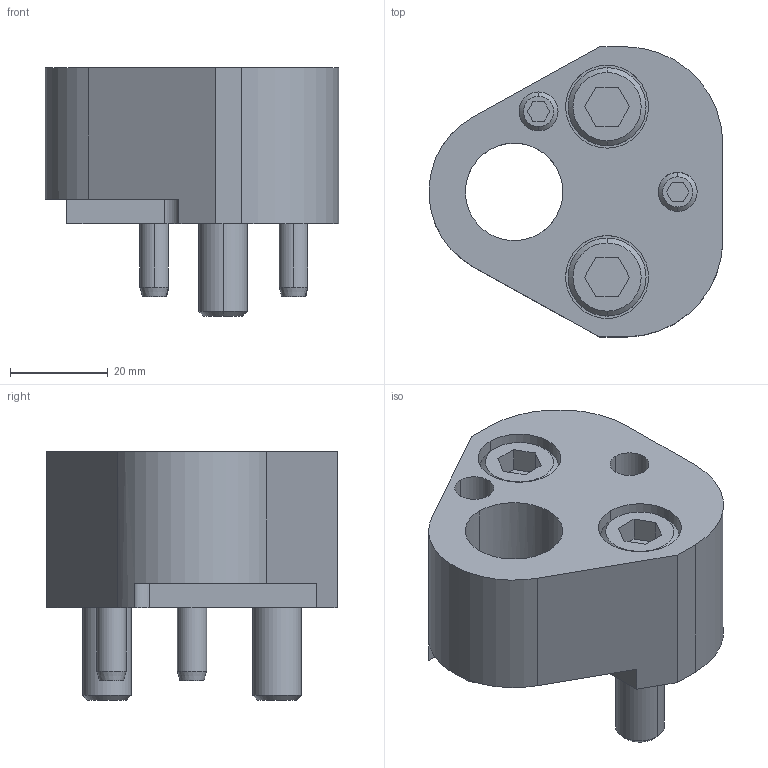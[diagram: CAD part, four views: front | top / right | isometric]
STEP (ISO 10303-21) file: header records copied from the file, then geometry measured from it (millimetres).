
FILE_DESCRIPTION(/* description */ (''),/* implementation_level */ '2;1');
FILE_NAME(/* name */ '3d_crnfr20_03655_r00.stp',/* time_stamp */ '2011-01-10T14:16:19+09:00',/* author */ ('MISUMI'),/* organization */ (''),/* preprocessor_version */ 'ST-DEVELOPER v11',/* originating_system */ 'UGS - NX 5.0',/* authorisation */ '');
FILE_SCHEMA (('CONFIG_CONTROL_DESIGN'));
Length unit declared in the file: millimetre
Products named in the file (1): 3d_crnfr20_03655_r00
Bounding box: 60.24 x 59.5 x 51 mm (x, y, z)
Volume: 74191.3 mm3; surface area: 22708.3 mm2
Topology: 7 solids, 7 shells, 136 faces, 304 edges, 195 vertices
Faces by surface type: plane 62, cylinder 48, cone 26
Entity records: 3925 total; most frequent: DIRECTION 695, CARTESIAN_POINT 693, ORIENTED_EDGE 608, EDGE_CURVE 304, AXIS2_PLACEMENT_3D 261, VERTEX_POINT 195, LINE 173, VECTOR 173
